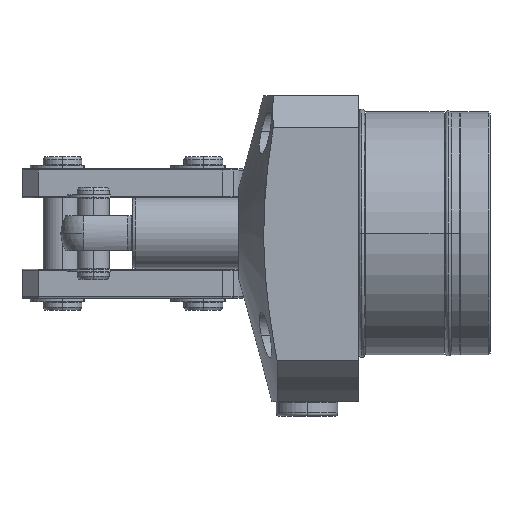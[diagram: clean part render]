
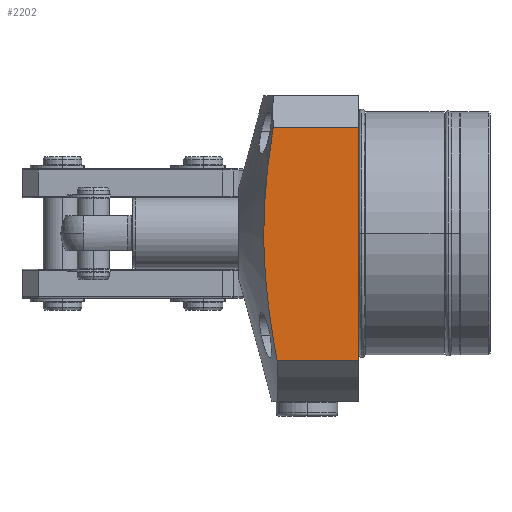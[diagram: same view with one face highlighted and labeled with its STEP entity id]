
A CAD part, top view. The second image highlights one B-rep face of the part: STEP entity #2202.
In plain terms, the highlighted planar face has unit normal (0, 0, 1).
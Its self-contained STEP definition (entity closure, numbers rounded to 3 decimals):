
#1472=B_SPLINE_CURVE_WITH_KNOTS('',3,(#12330,#12331,#12332,#12333,#12334,
#12335),.UNSPECIFIED.,.F.,.F.,(4,2,4),(0.,0.5,1.),.UNSPECIFIED.);
#1897=PLANE('',#8199);
#2202=ADVANCED_FACE('',(#2726),#1897,.F.);
#2726=FACE_OUTER_BOUND('',#3129,.T.);
#3129=EDGE_LOOP('',(#5161,#5162,#5163,#5164));
#3537=LINE('',#12481,#3866);
#3539=LINE('',#12489,#3868);
#3547=LINE('',#12510,#3876);
#3866=VECTOR('',#9910,1.);
#3868=VECTOR('',#9920,1.);
#3876=VECTOR('',#9946,1.);
#5161=ORIENTED_EDGE('',*,*,#6895,.T.);
#5162=ORIENTED_EDGE('',*,*,#6905,.T.);
#5163=ORIENTED_EDGE('',*,*,#6910,.T.);
#5164=ORIENTED_EDGE('',*,*,#6922,.F.);
#6133=VERTEX_POINT('',#12329);
#6134=VERTEX_POINT('',#12336);
#6140=VERTEX_POINT('',#12482);
#6142=VERTEX_POINT('',#12490);
#6895=EDGE_CURVE('',#6134,#6133,#1472,.T.);
#6905=EDGE_CURVE('',#6133,#6140,#3537,.T.);
#6910=EDGE_CURVE('',#6140,#6142,#3539,.T.);
#6922=EDGE_CURVE('',#6134,#6142,#3547,.T.);
#8199=AXIS2_PLACEMENT_3D('',#12512,#9949,#9950);
#9910=DIRECTION('',(1.,0.,0.));
#9920=DIRECTION('',(0.,1.,0.));
#9946=DIRECTION('',(1.,0.,0.));
#9949=DIRECTION('',(0.,0.,-1.));
#9950=DIRECTION('',(1.,0.,0.));
#12329=CARTESIAN_POINT('',(-25.237,-39.468,42.5));
#12330=CARTESIAN_POINT('',(-26.442,32.5,42.5));
#12331=CARTESIAN_POINT('',(-28.387,20.546,42.5));
#12332=CARTESIAN_POINT('',(-29.612,8.574,42.5));
#12333=CARTESIAN_POINT('',(-29.093,-15.451,42.5));
#12334=CARTESIAN_POINT('',(-27.414,-27.528,42.5));
#12335=CARTESIAN_POINT('',(-25.237,-39.468,42.5));
#12336=CARTESIAN_POINT('',(-26.442,32.5,42.5));
#12481=CARTESIAN_POINT('',(-61.,-39.468,42.5));
#12482=CARTESIAN_POINT('',(0.,-39.468,42.5));
#12489=CARTESIAN_POINT('',(0.,32.5,42.5));
#12490=CARTESIAN_POINT('',(0.,32.5,42.5));
#12510=CARTESIAN_POINT('',(-61.,32.5,42.5));
#12512=CARTESIAN_POINT('',(-61.,32.5,42.5));
